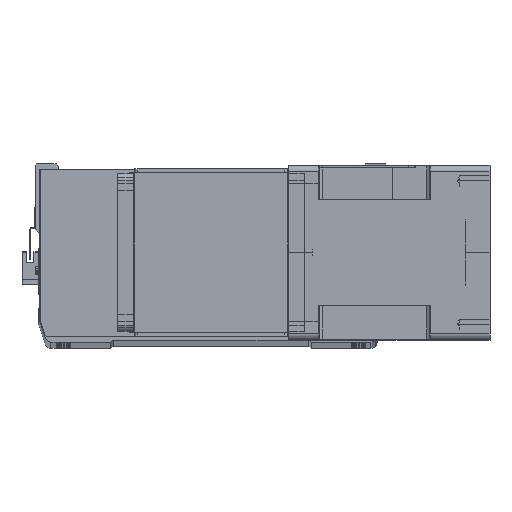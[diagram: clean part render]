
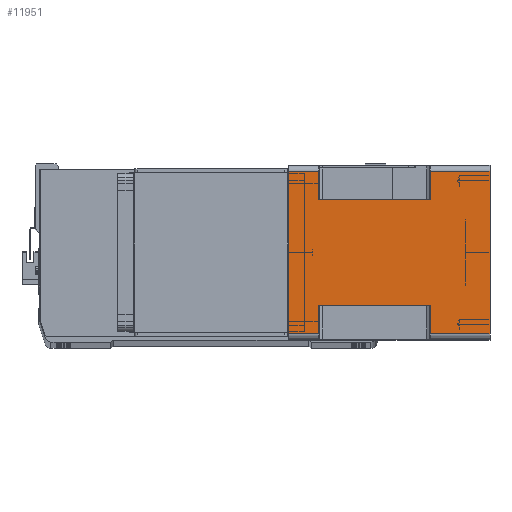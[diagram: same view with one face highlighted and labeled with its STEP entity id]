
A CAD part, top view. The second image highlights one B-rep face of the part: STEP entity #11951.
In plain terms, the highlighted planar face has unit normal (0, 0, 1) as drawn and (1, 0, 0) by its records, which use the part's own axes.
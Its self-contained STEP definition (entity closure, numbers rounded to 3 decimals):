
#722 = CARTESIAN_POINT ( 'NONE',  ( 71., 66., -164. ) ) ;
#879 = ORIENTED_EDGE ( 'NONE', *, *, #27394, .T. ) ;
#1065 = EDGE_CURVE ( 'NONE', #30311, #18208, #8872, .T. ) ;
#1482 = EDGE_CURVE ( 'NONE', #8584, #18612, #31810, .T. ) ;
#2159 = EDGE_CURVE ( 'NONE', #32919, #27312, #6180, .T. ) ;
#2271 = DIRECTION ( 'NONE',  ( 0., 0., 1. ) ) ;
#2380 = CARTESIAN_POINT ( 'NONE',  ( 71., -66., -164. ) ) ;
#2695 = DIRECTION ( 'NONE',  ( 0., 1., 0. ) ) ;
#2753 = EDGE_CURVE ( 'NONE', #25888, #33287, #13210, .T. ) ;
#3278 = DIRECTION ( 'NONE',  ( 0., 1., 0. ) ) ;
#3784 = EDGE_LOOP ( 'NONE', ( #6192, #879, #26581, #28820, #28217, #18431, #23661, #26934, #28670, #31491, #6581, #5396 ) ) ;
#3967 = EDGE_CURVE ( 'NONE', #30311, #20514, #13044, .T. ) ;
#4463 = DIRECTION ( 'NONE',  ( 0., 1., 0. ) ) ;
#5396 = ORIENTED_EDGE ( 'NONE', *, *, #12183, .T. ) ;
#5720 = PLANE ( 'NONE',  #28327 ) ;
#5950 = VECTOR ( 'NONE', #29030, 1000. ) ;
#6035 = VERTEX_POINT ( 'NONE', #11390 ) ;
#6180 = LINE ( 'NONE', #2380, #23763 ) ;
#6192 = ORIENTED_EDGE ( 'NONE', *, *, #12587, .F. ) ;
#6581 = ORIENTED_EDGE ( 'NONE', *, *, #2159, .F. ) ;
#8047 = DIRECTION ( 'NONE',  ( 1., 0., 0. ) ) ;
#8121 = CARTESIAN_POINT ( 'NONE',  ( 71., -43., -164. ) ) ;
#8219 = VECTOR ( 'NONE', #32886, 1000. ) ;
#8584 = VERTEX_POINT ( 'NONE', #9367 ) ;
#8611 = VECTOR ( 'NONE', #23578, 1000. ) ;
#8872 = LINE ( 'NONE', #25181, #17245 ) ;
#9027 = VERTEX_POINT ( 'NONE', #13667 ) ;
#9029 = LINE ( 'NONE', #14107, #8219 ) ;
#9050 = CARTESIAN_POINT ( 'NONE',  ( 71., -66., -164. ) ) ;
#9367 = CARTESIAN_POINT ( 'NONE',  ( 71., -66., -164. ) ) ;
#9821 = VERTEX_POINT ( 'NONE', #16056 ) ;
#10788 = CARTESIAN_POINT ( 'NONE',  ( 71., 66., -24.5 ) ) ;
#11057 = CARTESIAN_POINT ( 'NONE',  ( 71., -66., -164. ) ) ;
#11170 = VECTOR ( 'NONE', #3278, 1000. ) ;
#11184 = DIRECTION ( 'NONE',  ( 0., 0., 1. ) ) ;
#11390 = CARTESIAN_POINT ( 'NONE',  ( 71., -43., -115.5 ) ) ;
#11479 = VECTOR ( 'NONE', #22041, 1000. ) ;
#11621 = CARTESIAN_POINT ( 'NONE',  ( 71., -66., 0. ) ) ;
#11743 = EDGE_CURVE ( 'NONE', #27312, #9821, #28772, .T. ) ;
#11951 = ADVANCED_FACE ( 'NONE', ( #13313 ), #5720, .T. ) ;
#12183 = EDGE_CURVE ( 'NONE', #32919, #9027, #23762, .T. ) ;
#12587 = EDGE_CURVE ( 'NONE', #6035, #9027, #16657, .T. ) ;
#13033 = CARTESIAN_POINT ( 'NONE',  ( 71., -66., -24.5 ) ) ;
#13044 = LINE ( 'NONE', #13033, #5950 ) ;
#13210 = LINE ( 'NONE', #18347, #8611 ) ;
#13313 = FACE_OUTER_BOUND ( 'NONE', #3784, .T. ) ;
#13667 = CARTESIAN_POINT ( 'NONE',  ( 71., -43., -24.5 ) ) ;
#14107 = CARTESIAN_POINT ( 'NONE',  ( 71., -66., -115.5 ) ) ;
#14513 = CARTESIAN_POINT ( 'NONE',  ( 71., 43., -24.5 ) ) ;
#15407 = VECTOR ( 'NONE', #24140, 1000. ) ;
#16056 = CARTESIAN_POINT ( 'NONE',  ( 71., 66., 0. ) ) ;
#16657 = LINE ( 'NONE', #8121, #15407 ) ;
#16897 = DIRECTION ( 'NONE',  ( 0., 1., 0. ) ) ;
#17245 = VECTOR ( 'NONE', #22235, 1000. ) ;
#17487 = CARTESIAN_POINT ( 'NONE',  ( 71., 43., -115.5 ) ) ;
#18208 = VERTEX_POINT ( 'NONE', #17487 ) ;
#18347 = CARTESIAN_POINT ( 'NONE',  ( 71., 66., -164. ) ) ;
#18431 = ORIENTED_EDGE ( 'NONE', *, *, #32521, .T. ) ;
#18612 = VERTEX_POINT ( 'NONE', #22710 ) ;
#19369 = CARTESIAN_POINT ( 'NONE',  ( 71., 66., -115.5 ) ) ;
#19410 = CARTESIAN_POINT ( 'NONE',  ( 71., -66., -24.5 ) ) ;
#20514 = VERTEX_POINT ( 'NONE', #10788 ) ;
#22041 = DIRECTION ( 'NONE',  ( 0., 0., 1. ) ) ;
#22235 = DIRECTION ( 'NONE',  ( 0., 0., -1. ) ) ;
#22497 = EDGE_CURVE ( 'NONE', #20514, #9821, #29485, .T. ) ;
#22710 = CARTESIAN_POINT ( 'NONE',  ( 71., -66., -115.5 ) ) ;
#23065 = CARTESIAN_POINT ( 'NONE',  ( 71., 43., -115.5 ) ) ;
#23578 = DIRECTION ( 'NONE',  ( 0., 0., 1. ) ) ;
#23661 = ORIENTED_EDGE ( 'NONE', *, *, #1065, .F. ) ;
#23762 = LINE ( 'NONE', #30313, #11170 ) ;
#23763 = VECTOR ( 'NONE', #2271, 1000. ) ;
#23923 = LINE ( 'NONE', #23065, #29326 ) ;
#24140 = DIRECTION ( 'NONE',  ( 0., 0., 1. ) ) ;
#24179 = CARTESIAN_POINT ( 'NONE',  ( 71., -66., -164. ) ) ;
#24719 = VECTOR ( 'NONE', #11184, 1000. ) ;
#24811 = VECTOR ( 'NONE', #16897, 1000. ) ;
#24833 = EDGE_CURVE ( 'NONE', #8584, #25888, #31885, .T. ) ;
#25181 = CARTESIAN_POINT ( 'NONE',  ( 71., 43., -164. ) ) ;
#25888 = VERTEX_POINT ( 'NONE', #33606 ) ;
#26581 = ORIENTED_EDGE ( 'NONE', *, *, #1482, .F. ) ;
#26719 = VECTOR ( 'NONE', #4463, 1000. ) ;
#26934 = ORIENTED_EDGE ( 'NONE', *, *, #3967, .T. ) ;
#27312 = VERTEX_POINT ( 'NONE', #11621 ) ;
#27394 = EDGE_CURVE ( 'NONE', #6035, #18612, #9029, .T. ) ;
#28217 = ORIENTED_EDGE ( 'NONE', *, *, #2753, .T. ) ;
#28327 = AXIS2_PLACEMENT_3D ( 'NONE', #24179, #8047, #2695 ) ;
#28670 = ORIENTED_EDGE ( 'NONE', *, *, #22497, .T. ) ;
#28772 = LINE ( 'NONE', #31293, #26719 ) ;
#28820 = ORIENTED_EDGE ( 'NONE', *, *, #24833, .T. ) ;
#29030 = DIRECTION ( 'NONE',  ( 0., 1., 0. ) ) ;
#29326 = VECTOR ( 'NONE', #31203, 1000. ) ;
#29485 = LINE ( 'NONE', #722, #11479 ) ;
#30311 = VERTEX_POINT ( 'NONE', #14513 ) ;
#30313 = CARTESIAN_POINT ( 'NONE',  ( 71., -43., -24.5 ) ) ;
#31203 = DIRECTION ( 'NONE',  ( 0., -1., 0. ) ) ;
#31293 = CARTESIAN_POINT ( 'NONE',  ( 71., -66., 0. ) ) ;
#31491 = ORIENTED_EDGE ( 'NONE', *, *, #11743, .F. ) ;
#31810 = LINE ( 'NONE', #11057, #24719 ) ;
#31885 = LINE ( 'NONE', #9050, #24811 ) ;
#32521 = EDGE_CURVE ( 'NONE', #33287, #18208, #23923, .T. ) ;
#32886 = DIRECTION ( 'NONE',  ( 0., -1., 0. ) ) ;
#32919 = VERTEX_POINT ( 'NONE', #19410 ) ;
#33287 = VERTEX_POINT ( 'NONE', #19369 ) ;
#33606 = CARTESIAN_POINT ( 'NONE',  ( 71., 66., -164. ) ) ;
